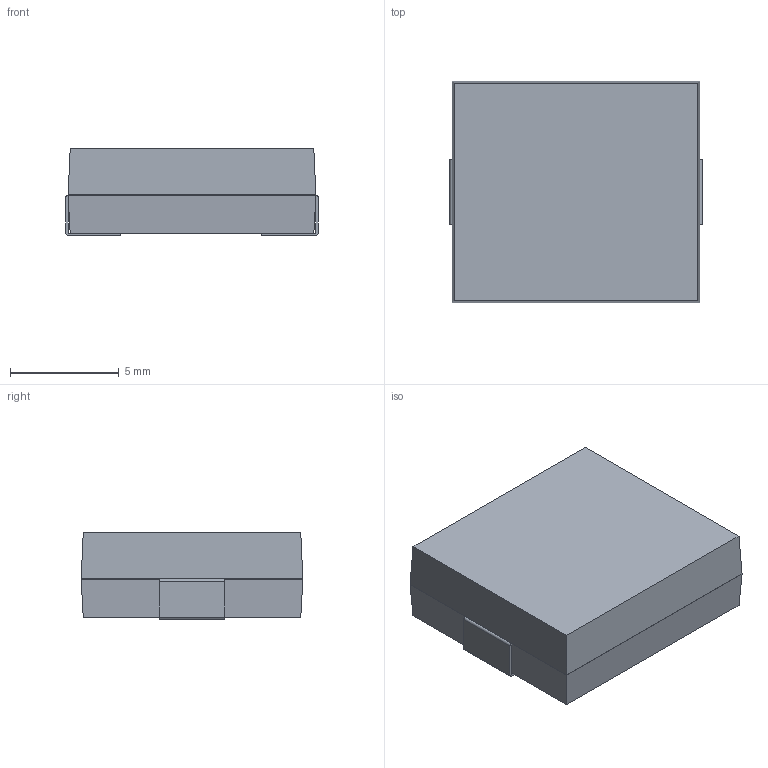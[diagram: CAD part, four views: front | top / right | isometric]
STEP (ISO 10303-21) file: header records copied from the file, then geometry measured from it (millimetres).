
FILE_DESCRIPTION(('FreeCAD Model'),'2;1');
FILE_NAME('/var/www/3D/0T/18685841.1.1.stp','2023-10-09T13:13:39',( 'Author'),(''),'Open CASCADE STEP processor 6.9','FreeCAD','Unknown' );
FILE_SCHEMA(('AUTOMOTIVE_DESIGN { 1 0 10303 214 1 1 1 1 }'));
Length unit declared in the file: millimetre
Products named in the file (4): ASSEMBLY; Chamfer; FilletPin1; FilletPin2
Assembly tree (3 placements, depth 2):
  ASSEMBLY
    Chamfer
    FilletPin1
    FilletPin2
Bounding box: 11.6 x 10.2 x 4 mm (x, y, z)
Volume: 449.3 mm3; surface area: 474.6 mm2
Topology: 3 solids, 3 shells, 38 faces, 88 edges, 56 vertices
Faces by surface type: plane 34, cylinder 4
Entity records: 2300 total; most frequent: CARTESIAN_POINT 390, DIRECTION 348, LINE 244, VECTOR 244, ORIENTED_EDGE 176, PCURVE 176, DEFINITIONAL_REPRESENTATION 176, EDGE_CURVE 88
